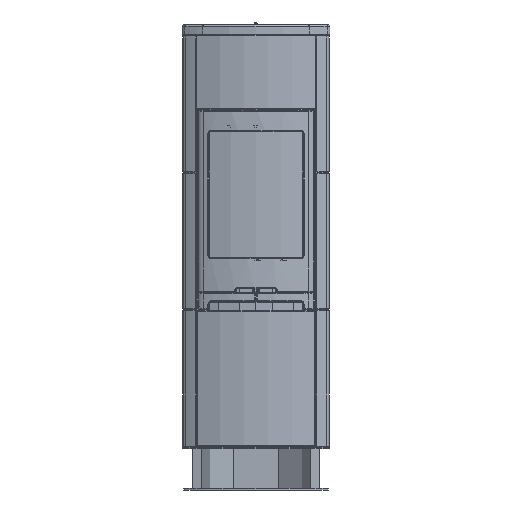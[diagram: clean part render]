
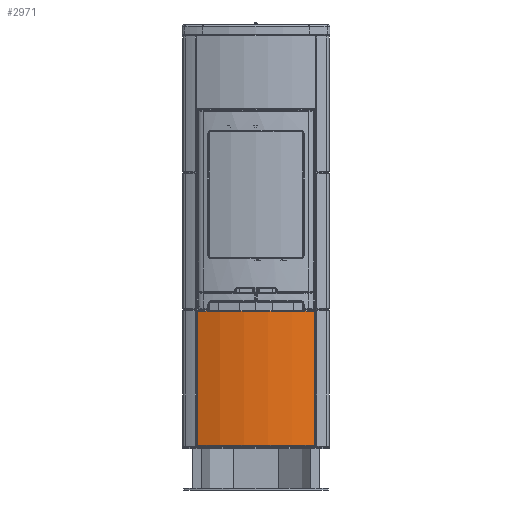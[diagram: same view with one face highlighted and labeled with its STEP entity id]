
A CAD part, front view. The second image highlights one B-rep face of the part: STEP entity #2971.
In plain terms, the highlighted cylindrical face has radius 590 mm (diameter 1180 mm), a partial arc.
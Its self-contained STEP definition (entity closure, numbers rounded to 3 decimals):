
#2971 = ADVANCED_FACE( '', ( #6157 ), #6158, .T. );
#6157 = FACE_OUTER_BOUND( '', #20715, .T. );
#6158 = CYLINDRICAL_SURFACE( '', #20716, 590. );
#20715 = EDGE_LOOP( '', ( #32698, #32699, #32700, #32701 ) );
#20716 = AXIS2_PLACEMENT_3D( '', #32702, #32703, #32704 );
#32698 = ORIENTED_EDGE( '', *, *, #36496, .T. );
#32699 = ORIENTED_EDGE( '', *, *, #34804, .T. );
#32700 = ORIENTED_EDGE( '', *, *, #34692, .T. );
#32701 = ORIENTED_EDGE( '', *, *, #35744, .T. );
#32702 = CARTESIAN_POINT( '', ( 0.001, 89.55, 519.5 ) );
#32703 = DIRECTION( '', ( 0., 0., -1. ) );
#32704 = DIRECTION( '', ( -1., 0., 0. ) );
#34692 = EDGE_CURVE( '', #38763, #38760, #38764, .T. );
#34804 = EDGE_CURVE( '', #38954, #38763, #38955, .T. );
#35744 = EDGE_CURVE( '', #38760, #40449, #40451, .T. );
#36496 = EDGE_CURVE( '', #40449, #38954, #41528, .T. );
#38760 = VERTEX_POINT( '', #47236 );
#38763 = VERTEX_POINT( '', #47240 );
#38764 = LINE( '', #47241, #47242 );
#38954 = VERTEX_POINT( '', #47644 );
#38955 = CIRCLE( '', #47645, 590. );
#40449 = VERTEX_POINT( '', #53614 );
#40451 = CIRCLE( '', #53616, 590. );
#41528 = LINE( '', #59513, #59514 );
#47236 = CARTESIAN_POINT( '', ( -219.198, -458.22, 12. ) );
#47240 = CARTESIAN_POINT( '', ( -219.198, -458.22, 516.5 ) );
#47241 = CARTESIAN_POINT( '', ( -219.198, -458.22, 519.5 ) );
#47242 = VECTOR( '', #69618, 1000. );
#47644 = CARTESIAN_POINT( '', ( 219.201, -458.22, 516.5 ) );
#47645 = AXIS2_PLACEMENT_3D( '', #69747, #69748, #69749 );
#53614 = CARTESIAN_POINT( '', ( 219.201, -458.22, 12. ) );
#53616 = AXIS2_PLACEMENT_3D( '', #70807, #70808, #70809 );
#59513 = CARTESIAN_POINT( '', ( 219.201, -458.22, 519.5 ) );
#59514 = VECTOR( '', #71593, 1000. );
#69618 = DIRECTION( '', ( 0., 0., -1. ) );
#69747 = CARTESIAN_POINT( '', ( 0.001, 89.55, 516.5 ) );
#69748 = DIRECTION( '', ( 0., 0., -1. ) );
#69749 = DIRECTION( '', ( -1., 0., 0. ) );
#70807 = CARTESIAN_POINT( '', ( 0.001, 89.55, 12. ) );
#70808 = DIRECTION( '', ( 0., 0., 1. ) );
#70809 = DIRECTION( '', ( -1., 0., 0. ) );
#71593 = DIRECTION( '', ( 0., 0., 1. ) );
